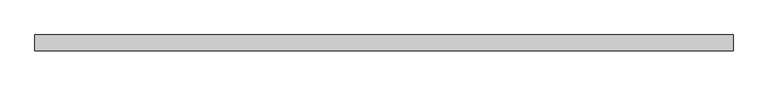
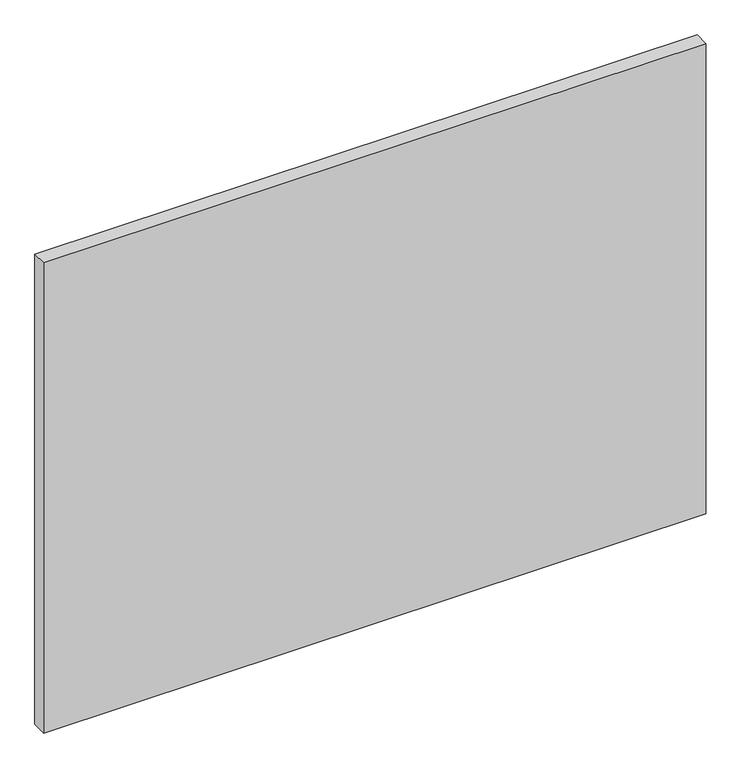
"""IFC4 building model written with IfcOpenShell, lengths in millimetres: plate geometry, 系统嵌板 : 玻璃."""

from ifc_helpers import new_model, si_unit, origin, origin_with_axes, place, context, project, spatial, polyline, outline, extrude, source, transform, mapped, element, save


def plate_4fa5932a(model_context):
    return source(origin(), model_context, "Body", "SweptSolid", [
        extrude(outline(polyline([(550.0, -12.5), (-550.0, -12.5), (-550.0, 12.5), (550.0, 12.5), (550.0, -12.5)])), origin_with_axes(), (0.0, 0.0, 1.0), 825.0),
    ])


if __name__ == "__main__":
    model = new_model("IFC4")
    model_context = context("Model", 3, world=origin())
    ifc_project = project(units=[si_unit("LENGTHUNIT", "METRE", prefix="MILLI")], contexts=[model_context])
    site = spatial("IfcSite", under=ifc_project)
    building = spatial("IfcBuilding", under=site)
    placement = place(None, origin())
    plate_shape = plate_4fa5932a(model_context)
    element("IfcPlate", 1, ObjectType="系统嵌板 : 玻璃", at=placement, inside=building, context=model_context, shape_type="MappedRepresentation", body=[
        mapped(plate_shape, transform((0.0, 0.0, 0.0), x_axis=(1.0, 0.0, 0.0), y_axis=(0.0, 1.0, 0.0), z_axis=(0.0, 0.0, 1.0))),
    ])
    save(model, "model.ifc")
